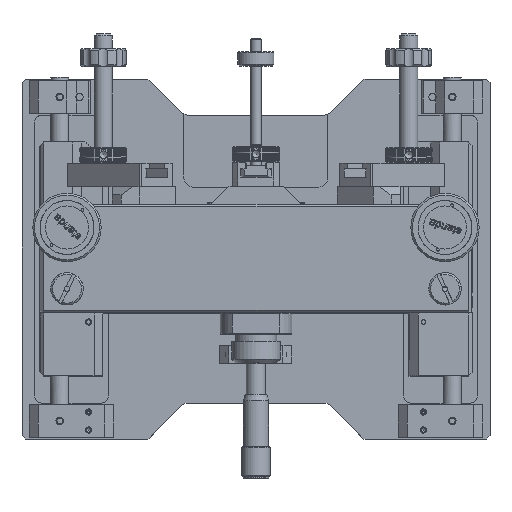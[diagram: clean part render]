
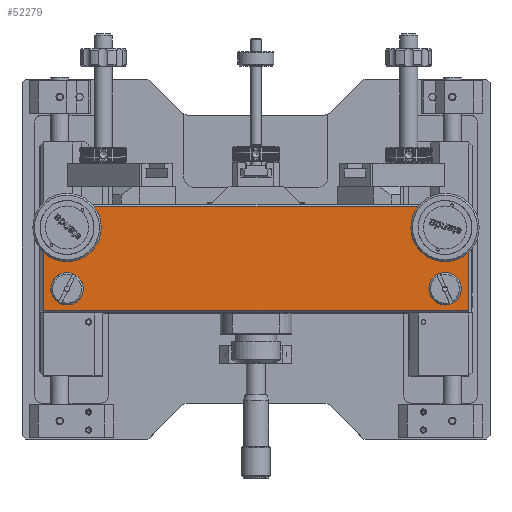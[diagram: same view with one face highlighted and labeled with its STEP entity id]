
A CAD part, top view. The second image highlights one B-rep face of the part: STEP entity #52279.
In plain terms, the highlighted planar face has unit normal (0, 0, 1).
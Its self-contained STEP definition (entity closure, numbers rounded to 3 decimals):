
#2044=FACE_BOUND($,#20858,.T.);
#2045=FACE_BOUND($,#20859,.T.);
#2046=FACE_BOUND($,#20860,.T.);
#2047=FACE_BOUND($,#20861,.T.);
#2048=FACE_BOUND($,#20862,.T.);
#4060=CIRCLE($,#57568,8.8);
#4062=CIRCLE($,#57574,9.8);
#4179=CIRCLE($,#57850,8.8);
#4180=CIRCLE($,#57851,9.8);
#7225=LINE($,#90190,#10770);
#7228=LINE($,#90201,#10773);
#7229=LINE($,#90202,#10774);
#7230=LINE($,#90203,#10775);
#10770=VECTOR($,#71001,236.);
#10773=VECTOR($,#71010,236.);
#10774=VECTOR($,#71011,58.);
#10775=VECTOR($,#71012,58.);
#13642=PLANE($,#57849);
#20858=EDGE_LOOP($,(#44175));
#20859=EDGE_LOOP($,(#44176));
#20860=EDGE_LOOP($,(#44177));
#20861=EDGE_LOOP($,(#44178));
#20862=EDGE_LOOP($,(#44179,#44180,#44181,#44182));
#25534=VERTEX_POINT($,#88489);
#25536=VERTEX_POINT($,#88497);
#25888=VERTEX_POINT($,#90187);
#25889=VERTEX_POINT($,#90189);
#25891=VERTEX_POINT($,#90195);
#25892=VERTEX_POINT($,#90197);
#25893=VERTEX_POINT($,#90199);
#25894=VERTEX_POINT($,#90200);
#31795=EDGE_CURVE($,#25534,#25534,#4060,.T.);
#31797=EDGE_CURVE($,#25536,#25536,#4062,.T.);
#32238=EDGE_CURVE($,#25888,#25889,#7225,.T.);
#32241=EDGE_CURVE($,#25891,#25891,#4179,.T.);
#32242=EDGE_CURVE($,#25892,#25892,#4180,.T.);
#32243=EDGE_CURVE($,#25893,#25894,#7228,.T.);
#32244=EDGE_CURVE($,#25889,#25893,#7229,.T.);
#32245=EDGE_CURVE($,#25894,#25888,#7230,.T.);
#44175=ORIENTED_EDGE($,*,*,#31795,.T.);
#44176=ORIENTED_EDGE($,*,*,#32241,.T.);
#44177=ORIENTED_EDGE($,*,*,#31797,.T.);
#44178=ORIENTED_EDGE($,*,*,#32242,.T.);
#44179=ORIENTED_EDGE($,*,*,#32243,.F.);
#44180=ORIENTED_EDGE($,*,*,#32244,.F.);
#44181=ORIENTED_EDGE($,*,*,#32238,.F.);
#44182=ORIENTED_EDGE($,*,*,#32245,.F.);
#52279=ADVANCED_FACE($,(#2044,#2045,#2046,#2047,#2048),#13642,.T.);
#57568=AXIS2_PLACEMENT_3D($,#88490,#70200,#70201);
#57574=AXIS2_PLACEMENT_3D($,#88498,#70212,#70213);
#57849=AXIS2_PLACEMENT_3D($,#90194,#71004,#71005);
#57850=AXIS2_PLACEMENT_3D($,#90196,#71006,#71007);
#57851=AXIS2_PLACEMENT_3D($,#90198,#71008,#71009);
#70200=DIRECTION('center_axis',(0.,0.,
-1.));
#70201=DIRECTION('ref_axis',(0.912,0.41,0.));
#70212=DIRECTION('center_axis',(0.,0.,
-1.));
#70213=DIRECTION('ref_axis',(0.,1.,0.));
#71001=DIRECTION($,(-1.,0.,0.));
#71004=DIRECTION('center_axis',(0.,0.,
1.));
#71005=DIRECTION('ref_axis',(0.,1.,0.));
#71006=DIRECTION('center_axis',(0.,0.,
-1.));
#71007=DIRECTION('ref_axis',(-0.894,0.449,0.));
#71008=DIRECTION('center_axis',(0.,0.,
-1.));
#71009=DIRECTION('ref_axis',(0.,1.,0.));
#71010=DIRECTION($,(1.,0.,0.));
#71011=DIRECTION($,(0.,1.,0.));
#71012=DIRECTION($,(0.,-1.,0.));
#88489=CARTESIAN_POINT('',(67.901,-32.62,260.));
#88490=CARTESIAN_POINT('Origin',(75.926,-29.009,260.));
#88497=CARTESIAN_POINT('',(-134.074,-4.809,260.));
#88498=CARTESIAN_POINT('Origin',(-134.074,4.991,260.));
#90187=CARTESIAN_POINT('',(88.926,-41.009,260.));
#90189=CARTESIAN_POINT('',(-147.074,-41.009,260.));
#90190=CARTESIAN_POINT($,(30.926,-41.009,260.));
#90194=CARTESIAN_POINT('Origin',(90.926,-42.009,260.));
#90195=CARTESIAN_POINT('',(-126.21,-32.96,260.));
#90196=CARTESIAN_POINT('Origin',(-134.074,-29.009,260.));
#90197=CARTESIAN_POINT('',(75.926,-4.809,260.));
#90198=CARTESIAN_POINT('Origin',(75.926,4.991,260.));
#90199=CARTESIAN_POINT('',(-147.074,16.991,260.));
#90200=CARTESIAN_POINT('',(88.926,16.991,260.));
#90201=CARTESIAN_POINT($,(30.926,16.991,260.));
#90202=CARTESIAN_POINT($,(-147.074,-42.009,260.));
#90203=CARTESIAN_POINT($,(88.926,-42.009,260.));
